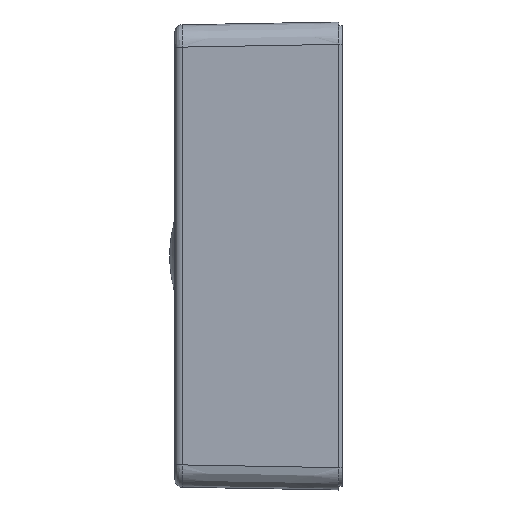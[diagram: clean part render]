
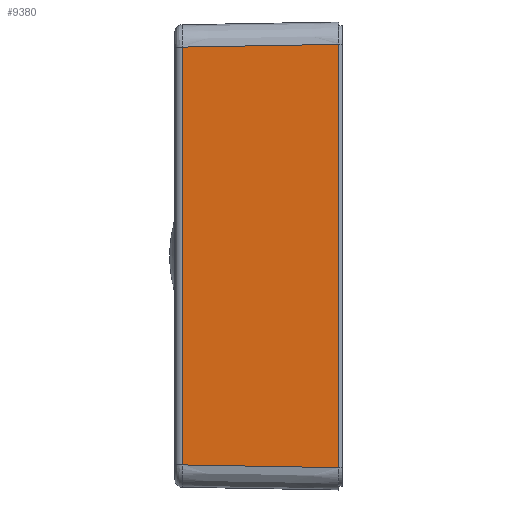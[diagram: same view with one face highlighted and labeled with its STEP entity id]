
A CAD part, left-side view. The second image highlights one B-rep face of the part: STEP entity #9380.
In plain terms, the highlighted planar face has unit normal (-1, 0.018, 0).
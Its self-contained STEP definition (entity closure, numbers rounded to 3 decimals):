
#1 = CARTESIAN_POINT ( 'NONE',  ( -29.851, 8.517, -28.302 ) ) ;
#173 = LINE ( 'NONE', #6977, #4308 ) ;
#289 = CARTESIAN_POINT ( 'NONE',  ( -29.974, 1.517, -31.45 ) ) ;
#648 = B_SPLINE_CURVE_WITH_KNOTS ( 'NONE', 3,
 ( #12102, #2266, #4261, #7257 ),
 .UNSPECIFIED., .F., .F.,
 ( 4, 4 ),
 ( 0.065, 0.958 ),
 .UNSPECIFIED. ) ;
#903 = CARTESIAN_POINT ( 'NONE',  ( -29.729, 15.517, -28.18 ) ) ;
#1193 = LINE ( 'NONE', #289, #3529 ) ;
#1708 = VERTEX_POINT ( 'NONE', #3369 ) ;
#1796 = EDGE_LOOP ( 'NONE', ( #3265, #10930, #2743, #3763 ) ) ;
#2266 = CARTESIAN_POINT ( 'NONE',  ( -29.851, 8.517, 28.302 ) ) ;
#2743 = ORIENTED_EDGE ( 'NONE', *, *, #10243, .T. ) ;
#3265 = ORIENTED_EDGE ( 'NONE', *, *, #7412, .F. ) ;
#3369 = CARTESIAN_POINT ( 'NONE',  ( -29.607, 22.517, 28.057 ) ) ;
#3529 = VECTOR ( 'NONE', #7027, 1000. ) ;
#3763 = ORIENTED_EDGE ( 'NONE', *, *, #3795, .T. ) ;
#3795 = EDGE_CURVE ( 'NONE', #12020, #8073, #11003, .T. ) ;
#3927 = CARTESIAN_POINT ( 'NONE',  ( -29.974, 1.517, -28.424 ) ) ;
#4002 = FACE_OUTER_BOUND ( 'NONE', #1796, .T. ) ;
#4261 = CARTESIAN_POINT ( 'NONE',  ( -29.729, 15.517, 28.18 ) ) ;
#4308 = VECTOR ( 'NONE', #4810, 1000. ) ;
#4810 = DIRECTION ( 'NONE',  ( 0., 0., -1. ) ) ;
#5731 = DIRECTION ( 'NONE',  ( -0.017, -1., 0. ) ) ;
#6977 = CARTESIAN_POINT ( 'NONE',  ( -29.607, 22.517, -28.04 ) ) ;
#7027 = DIRECTION ( 'NONE',  ( 0., 0., -1. ) ) ;
#7257 = CARTESIAN_POINT ( 'NONE',  ( -29.607, 22.517, 28.057 ) ) ;
#7412 = EDGE_CURVE ( 'NONE', #10861, #8073, #1193, .T. ) ;
#8073 = VERTEX_POINT ( 'NONE', #12379 ) ;
#9207 = EDGE_CURVE ( 'NONE', #10861, #1708, #648, .T. ) ;
#9380 = ADVANCED_FACE ( 'NONE', ( #4002 ), #10642, .T. ) ;
#9806 = DIRECTION ( 'NONE',  ( -1., 0.017, 0. ) ) ;
#10243 = EDGE_CURVE ( 'NONE', #1708, #12020, #173, .T. ) ;
#10642 = PLANE ( 'NONE',  #11405 ) ;
#10750 = CARTESIAN_POINT ( 'NONE',  ( -29.607, 22.517, -28.057 ) ) ;
#10861 = VERTEX_POINT ( 'NONE', #12483 ) ;
#10930 = ORIENTED_EDGE ( 'NONE', *, *, #9207, .T. ) ;
#10998 = CARTESIAN_POINT ( 'NONE',  ( -29.607, 22.517, -28.057 ) ) ;
#11003 = B_SPLINE_CURVE_WITH_KNOTS ( 'NONE', 3,
 ( #10750, #903, #1, #3927 ),
 .UNSPECIFIED., .F., .F.,
 ( 4, 4 ),
 ( 0.042, 0.935 ),
 .UNSPECIFIED. ) ;
#11405 = AXIS2_PLACEMENT_3D ( 'NONE', #12610, #9806, #5731 ) ;
#12020 = VERTEX_POINT ( 'NONE', #10998 ) ;
#12102 = CARTESIAN_POINT ( 'NONE',  ( -29.974, 1.517, 28.424 ) ) ;
#12379 = CARTESIAN_POINT ( 'NONE',  ( -29.974, 1.517, -28.424 ) ) ;
#12483 = CARTESIAN_POINT ( 'NONE',  ( -29.974, 1.517, 28.424 ) ) ;
#12610 = CARTESIAN_POINT ( 'NONE',  ( -30., 0., -31.45 ) ) ;
